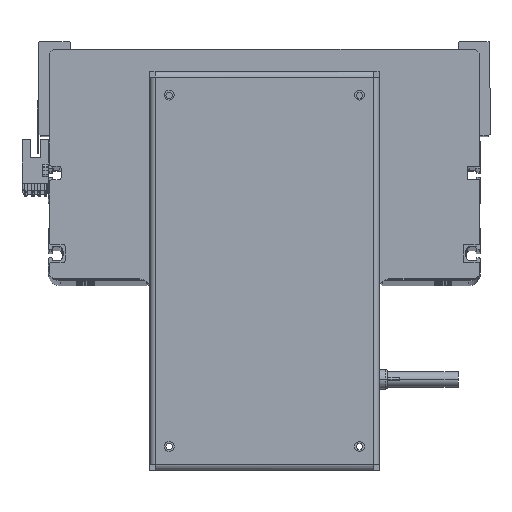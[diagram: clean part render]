
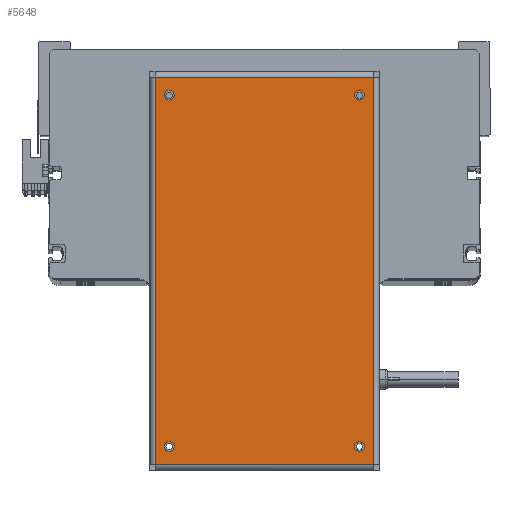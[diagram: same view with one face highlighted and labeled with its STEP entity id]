
A CAD part, top view. The second image highlights one B-rep face of the part: STEP entity #5648.
In plain terms, the highlighted planar face has unit normal (0, 0, 1).
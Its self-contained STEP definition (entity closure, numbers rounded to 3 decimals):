
#1 = FACE_BOUND ( 'NONE', #17443, .T. ) ;
#53 = CIRCLE ( 'NONE', #20477, 2.5 ) ;
#95 = CIRCLE ( 'NONE', #40293, 2.5 ) ;
#419 = CARTESIAN_POINT ( 'NONE',  ( -98.65, 55.6, 0. ) ) ;
#488 = VERTEX_POINT ( 'NONE', #35170 ) ;
#680 = VECTOR ( 'NONE', #27481, 1000. ) ;
#1123 = ORIENTED_EDGE ( 'NONE', *, *, #11214, .T. ) ;
#1251 = PLANE ( 'NONE',  #24899 ) ;
#1899 = CARTESIAN_POINT ( 'NONE',  ( 87.05, 48.5, 0. ) ) ;
#2046 = DIRECTION ( 'NONE',  ( 0., 0., 1. ) ) ;
#2074 = FACE_BOUND ( 'NONE', #35839, .T. ) ;
#2151 = ORIENTED_EDGE ( 'NONE', *, *, #34439, .F. ) ;
#2480 = CARTESIAN_POINT ( 'NONE',  ( 89.55, 48.5, 0. ) ) ;
#2545 = DIRECTION ( 'NONE',  ( 0., 0., 1. ) ) ;
#3129 = CARTESIAN_POINT ( 'NONE',  ( 89.55, -48.5, 0. ) ) ;
#3445 = ORIENTED_EDGE ( 'NONE', *, *, #38776, .F. ) ;
#3861 = VERTEX_POINT ( 'NONE', #13850 ) ;
#4106 = ORIENTED_EDGE ( 'NONE', *, *, #22514, .F. ) ;
#4222 = ORIENTED_EDGE ( 'NONE', *, *, #39019, .T. ) ;
#4704 = DIRECTION ( 'NONE',  ( 1., 0., 0. ) ) ;
#5096 = CARTESIAN_POINT ( 'NONE',  ( -98.75, -55.6, 0. ) ) ;
#5648 = ADVANCED_FACE ( 'NONE', ( #2074, #40139, #1, #14253, #29045 ), #1251, .F. ) ;
#5965 = AXIS2_PLACEMENT_3D ( 'NONE', #3129, #32256, #12660 ) ;
#5990 = ORIENTED_EDGE ( 'NONE', *, *, #35204, .F. ) ;
#6224 = EDGE_LOOP ( 'NONE', ( #4222, #12240, #1123, #37080 ) ) ;
#6431 = CARTESIAN_POINT ( 'NONE',  ( -87.05, -48.5, 0. ) ) ;
#7402 = CIRCLE ( 'NONE', #31119, 2.5 ) ;
#7642 = DIRECTION ( 'NONE',  ( -1., 0., 0. ) ) ;
#8348 = LINE ( 'NONE', #35984, #32276 ) ;
#9929 = CIRCLE ( 'NONE', #5965, 2.5 ) ;
#9962 = CARTESIAN_POINT ( 'NONE',  ( 89.55, -48.5, 0. ) ) ;
#10271 = EDGE_LOOP ( 'NONE', ( #3445, #2151 ) ) ;
#10296 = ORIENTED_EDGE ( 'NONE', *, *, #15273, .F. ) ;
#10467 = VERTEX_POINT ( 'NONE', #26182 ) ;
#10573 = VERTEX_POINT ( 'NONE', #23042 ) ;
#11120 = CARTESIAN_POINT ( 'NONE',  ( 98.75, 55.6, 0. ) ) ;
#11214 = EDGE_CURVE ( 'NONE', #35883, #32624, #8348, .T. ) ;
#11943 = CARTESIAN_POINT ( 'NONE',  ( -92.05, -48.5, 0. ) ) ;
#11957 = VERTEX_POINT ( 'NONE', #11943 ) ;
#12171 = DIRECTION ( 'NONE',  ( 1., 0., 0. ) ) ;
#12240 = ORIENTED_EDGE ( 'NONE', *, *, #37974, .T. ) ;
#12429 = LINE ( 'NONE', #11120, #680 ) ;
#12660 = DIRECTION ( 'NONE',  ( 1., 0., 0. ) ) ;
#13850 = CARTESIAN_POINT ( 'NONE',  ( -98.65, 55.6, 0. ) ) ;
#14143 = VECTOR ( 'NONE', #34077, 1000. ) ;
#14253 = FACE_BOUND ( 'NONE', #10271, .T. ) ;
#14385 = DIRECTION ( 'NONE',  ( 0., 0., 1. ) ) ;
#14680 = EDGE_CURVE ( 'NONE', #488, #10467, #39095, .T. ) ;
#14803 = AXIS2_PLACEMENT_3D ( 'NONE', #35203, #2545, #25293 ) ;
#14848 = DIRECTION ( 'NONE',  ( 1., 0., 0. ) ) ;
#15006 = VERTEX_POINT ( 'NONE', #33651 ) ;
#15273 = EDGE_CURVE ( 'NONE', #34556, #11957, #31956, .T. ) ;
#16158 = AXIS2_PLACEMENT_3D ( 'NONE', #9962, #22908, #26053 ) ;
#16491 = ORIENTED_EDGE ( 'NONE', *, *, #14680, .F. ) ;
#16542 = VERTEX_POINT ( 'NONE', #29538 ) ;
#17443 = EDGE_LOOP ( 'NONE', ( #16491, #24550 ) ) ;
#19420 = AXIS2_PLACEMENT_3D ( 'NONE', #28230, #2046, #14848 ) ;
#20477 = AXIS2_PLACEMENT_3D ( 'NONE', #2480, #25240, #38671 ) ;
#20569 = CARTESIAN_POINT ( 'NONE',  ( 98.75, 58.5, 0. ) ) ;
#21118 = CARTESIAN_POINT ( 'NONE',  ( -89.55, 48.5, 0. ) ) ;
#21239 = CARTESIAN_POINT ( 'NONE',  ( 92.05, 48.5, 0. ) ) ;
#22514 = EDGE_CURVE ( 'NONE', #10573, #15006, #7402, .T. ) ;
#22908 = DIRECTION ( 'NONE',  ( 0., 0., 1. ) ) ;
#23042 = CARTESIAN_POINT ( 'NONE',  ( -87.05, 48.5, 0. ) ) ;
#23767 = AXIS2_PLACEMENT_3D ( 'NONE', #30338, #14385, #4704 ) ;
#24309 = CARTESIAN_POINT ( 'NONE',  ( 98.65, 55.6, 0. ) ) ;
#24550 = ORIENTED_EDGE ( 'NONE', *, *, #31658, .F. ) ;
#24619 = EDGE_CURVE ( 'NONE', #15006, #10573, #95, .T. ) ;
#24899 = AXIS2_PLACEMENT_3D ( 'NONE', #20569, #40126, #7642 ) ;
#25197 = EDGE_LOOP ( 'NONE', ( #4106, #34166 ) ) ;
#25240 = DIRECTION ( 'NONE',  ( 0., 0., 1. ) ) ;
#25293 = DIRECTION ( 'NONE',  ( 1., 0., 0. ) ) ;
#26053 = DIRECTION ( 'NONE',  ( 1., 0., 0. ) ) ;
#26182 = CARTESIAN_POINT ( 'NONE',  ( 87.05, -48.5, 0. ) ) ;
#27481 = DIRECTION ( 'NONE',  ( -1., 0., 0. ) ) ;
#28230 = CARTESIAN_POINT ( 'NONE',  ( 89.55, 48.5, 0. ) ) ;
#28513 = CIRCLE ( 'NONE', #23767, 2.5 ) ;
#29045 = FACE_OUTER_BOUND ( 'NONE', #6224, .T. ) ;
#29271 = VERTEX_POINT ( 'NONE', #21239 ) ;
#29538 = CARTESIAN_POINT ( 'NONE',  ( -98.65, -55.6, 0. ) ) ;
#29791 = DIRECTION ( 'NONE',  ( 0., 1., 0. ) ) ;
#30061 = VERTEX_POINT ( 'NONE', #1899 ) ;
#30338 = CARTESIAN_POINT ( 'NONE',  ( -89.55, -48.5, 0. ) ) ;
#31119 = AXIS2_PLACEMENT_3D ( 'NONE', #21118, #40676, #12171 ) ;
#31658 = EDGE_CURVE ( 'NONE', #10467, #488, #9929, .T. ) ;
#31956 = CIRCLE ( 'NONE', #14803, 2.5 ) ;
#32256 = DIRECTION ( 'NONE',  ( 0., 0., 1. ) ) ;
#32276 = VECTOR ( 'NONE', #29791, 1000. ) ;
#32624 = VERTEX_POINT ( 'NONE', #24309 ) ;
#32976 = DIRECTION ( 'NONE',  ( 0., -1., 0. ) ) ;
#33651 = CARTESIAN_POINT ( 'NONE',  ( -92.05, 48.5, 0. ) ) ;
#34077 = DIRECTION ( 'NONE',  ( 1., 0., 0. ) ) ;
#34166 = ORIENTED_EDGE ( 'NONE', *, *, #24619, .F. ) ;
#34439 = EDGE_CURVE ( 'NONE', #30061, #29271, #53, .T. ) ;
#34556 = VERTEX_POINT ( 'NONE', #6431 ) ;
#35170 = CARTESIAN_POINT ( 'NONE',  ( 92.05, -48.5, 0. ) ) ;
#35203 = CARTESIAN_POINT ( 'NONE',  ( -89.55, -48.5, 0. ) ) ;
#35204 = EDGE_CURVE ( 'NONE', #11957, #34556, #28513, .T. ) ;
#35239 = DIRECTION ( 'NONE',  ( 0., 0., 1. ) ) ;
#35839 = EDGE_LOOP ( 'NONE', ( #10296, #5990 ) ) ;
#35883 = VERTEX_POINT ( 'NONE', #41358 ) ;
#35962 = LINE ( 'NONE', #5096, #14143 ) ;
#35984 = CARTESIAN_POINT ( 'NONE',  ( 98.65, -55.6, 0. ) ) ;
#36417 = VECTOR ( 'NONE', #32976, 1000. ) ;
#37080 = ORIENTED_EDGE ( 'NONE', *, *, #40794, .T. ) ;
#37425 = CIRCLE ( 'NONE', #19420, 2.5 ) ;
#37781 = CARTESIAN_POINT ( 'NONE',  ( -89.55, 48.5, 0. ) ) ;
#37925 = DIRECTION ( 'NONE',  ( 1., 0., 0. ) ) ;
#37974 = EDGE_CURVE ( 'NONE', #16542, #35883, #35962, .T. ) ;
#38671 = DIRECTION ( 'NONE',  ( 1., 0., 0. ) ) ;
#38776 = EDGE_CURVE ( 'NONE', #29271, #30061, #37425, .T. ) ;
#39019 = EDGE_CURVE ( 'NONE', #3861, #16542, #41510, .T. ) ;
#39095 = CIRCLE ( 'NONE', #16158, 2.5 ) ;
#40126 = DIRECTION ( 'NONE',  ( 0., 0., -1. ) ) ;
#40139 = FACE_BOUND ( 'NONE', #25197, .T. ) ;
#40293 = AXIS2_PLACEMENT_3D ( 'NONE', #37781, #35239, #37925 ) ;
#40676 = DIRECTION ( 'NONE',  ( 0., 0., 1. ) ) ;
#40794 = EDGE_CURVE ( 'NONE', #32624, #3861, #12429, .T. ) ;
#41358 = CARTESIAN_POINT ( 'NONE',  ( 98.65, -55.6, 0. ) ) ;
#41510 = LINE ( 'NONE', #419, #36417 ) ;
